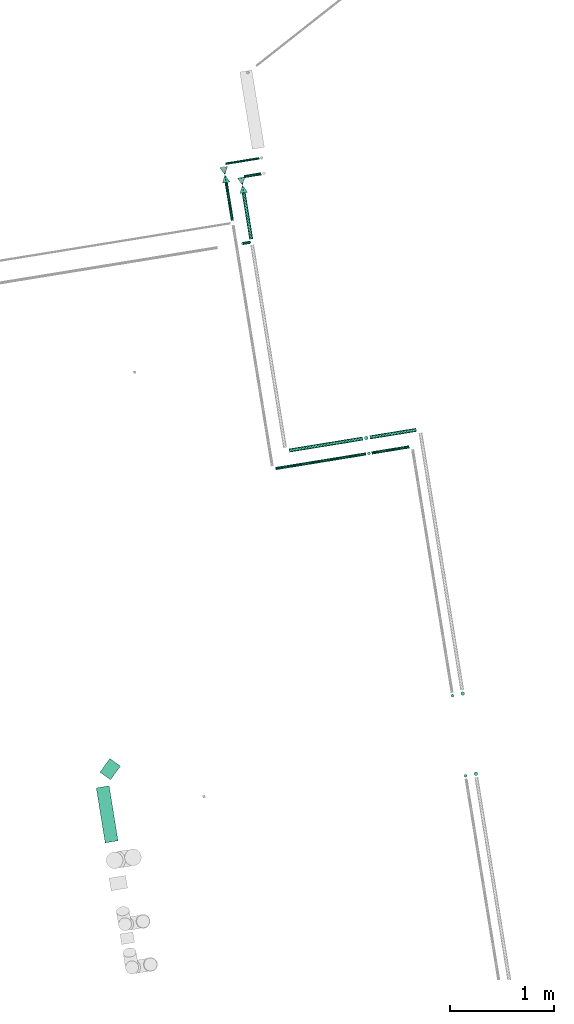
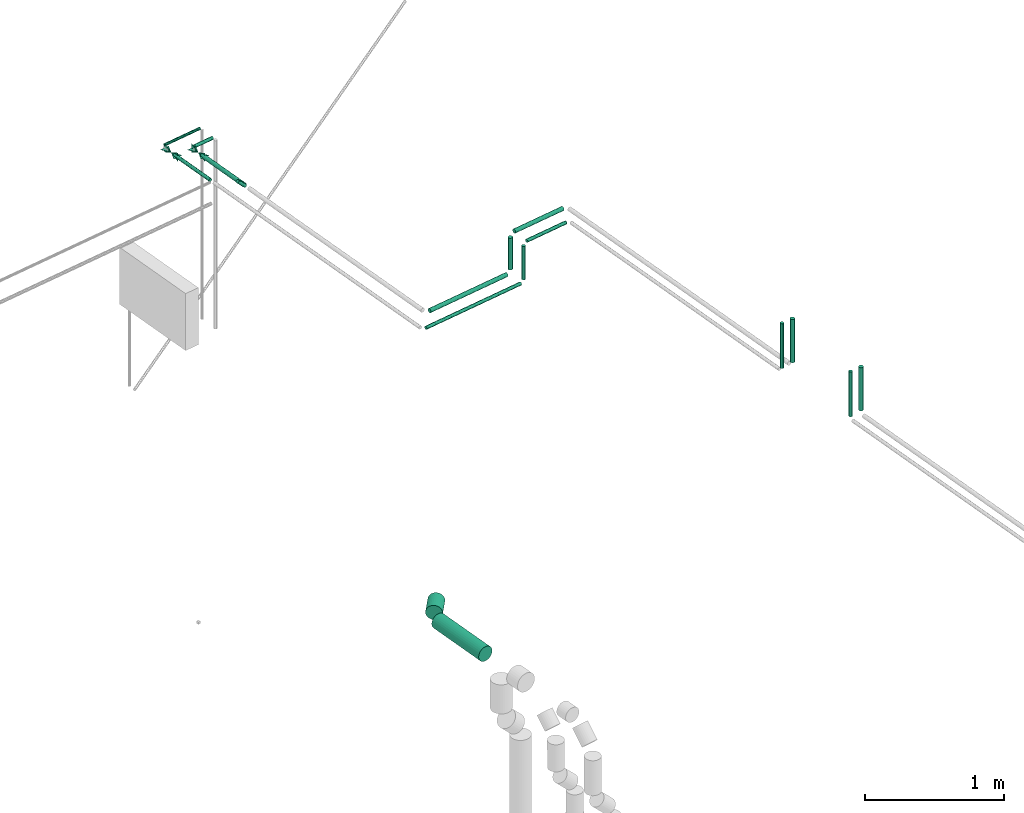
# One storey, part 4 of 11: 17 flow segments, 2 flow controllers.
"""IFC2X3 building model written with IfcOpenShell, lengths in millimetres."""

from ifc_helpers import new_model, entity, si_unit, converted_unit, derived_unit, direction, frame, frame_2d, origin, origin_with_axes, origin_2d_with_axis, place, context, subcontext, project, spatial, polyline, circle, outline, extrude, source, transform, mapped, material, type_object, element, save


model = new_model("IFC2X3")

# Units and contexts
plan_context = context("Plan", 3, precision=1e-05, world=origin_with_axes())
model_context = context("Model", 3, precision=0.01, world=origin(), true_north=direction((6.12323399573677e-17, 1.0)))
body_context = subcontext(model_context, "Body", "Model", "MODEL_VIEW")
ifc_project = project(units=[converted_unit("PLANEANGLEUNIT", "DEGREE", entity("IfcPositiveLengthMeasure", 0.0174532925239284), si_unit("PLANEANGLEUNIT", "RADIAN"), dimensions=[0, 0, 0, 0, 0, 0, 0]), si_unit("AREAUNIT", "SQUARE_METRE"), si_unit("LENGTHUNIT", "METRE", prefix="MILLI"), si_unit("MASSUNIT", "GRAM", prefix="KILO"), si_unit("POWERUNIT", "WATT"), si_unit("PRESSUREUNIT", "PASCAL", prefix="KILO"), si_unit("FORCEUNIT", "NEWTON", prefix="KILO"), si_unit("ELECTRICVOLTAGEUNIT", "VOLT"), si_unit("ELECTRICCURRENTUNIT", "AMPERE"), si_unit("THERMODYNAMICTEMPERATUREUNIT", "DEGREE_CELSIUS"), si_unit("TIMEUNIT", "SECOND"), si_unit("VOLUMEUNIT", "CUBIC_METRE"), derived_unit("LINEARVELOCITYUNIT", [(si_unit("LENGTHUNIT", "METRE"), 1), (si_unit("TIMEUNIT", "SECOND"), -1)]), derived_unit("VOLUMETRICFLOWRATEUNIT", [(si_unit("VOLUMEUNIT", "CUBIC_METRE"), 1), (si_unit("TIMEUNIT", "SECOND"), -1)]), derived_unit("THERMALTRANSMITTANCEUNIT", [(si_unit("POWERUNIT", "WATT"), 1), (si_unit("THERMODYNAMICTEMPERATUREUNIT", "KELVIN"), -1), (si_unit("AREAUNIT", "SQUARE_METRE"), -1)]), derived_unit("SOUNDPRESSUREUNIT", [(si_unit("PRESSUREUNIT", "PASCAL"), 1)])], contexts=[model_context, plan_context])

# Site, building, storey
site_placement = place(None, frame((-0.000710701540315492, 0.00438415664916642, 0.0), z_axis=(0.0, 0.0, 1.0), x_axis=(-0.160236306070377, 0.987078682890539, 0.0)))
site = spatial("IfcSite", under=ifc_project, at=site_placement, Name="Default", CompositionType="ELEMENT")
building_placement = place(site_placement, origin_with_axes())
building = spatial("IfcBuilding", under=site, at=building_placement, CompositionType="ELEMENT")
storey_placement = place(building_placement, frame((0.0, 0.0, 58999.9999999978), z_axis=(0.0, 0.0, 1.0), x_axis=(1.0, 0.0, 0.0)))
storey = spatial("IfcBuildingStorey", under=building, at=storey_placement, Name="Nivå F", CompositionType="ELEMENT", Elevation=58999.9999999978)

# Flow controllers
ifc_material = material(Name="<Unnamed>")
valve_type_1 = type_object("IfcValveType", Name="STENGEVENTIL - MANUELL - 4 - SM:STENGEVENTIL - MANUELL - 20 - SM01T", PredefinedType="NOTDEFINED", material=ifc_material)
shared_shape = source(origin(), body_context, "Body", "SweptSolid", [
    extrude(outline(polyline([(-39.1311896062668, -22.3606797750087), (44.7213595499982, -22.3606797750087), (-5.59016994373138, 44.7213595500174), (-39.1311896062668, -22.3606797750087)])), frame((50.0, -1.07349053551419, 0.0), z_axis=(0.0, 1.0, 0.0), x_axis=(-0.894427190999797, 0.0, 0.447213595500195)), (0.0, 0.0, 1.0), 2.13989335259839),
    extrude(outline(polyline([(-37.5000000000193, -25.0), (37.5000000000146, -25.0), (0.0, 50.0), (-37.5000000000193, -25.0)])), frame((-50.0, -1.07349053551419, 0.0), z_axis=(0.0, 1.0, 0.0), x_axis=(0.0, 0.0, 1.0)), (0.0, 0.0, 1.0), 2.13989335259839),
    extrude(outline(polyline([(-37.5000000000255, -25.0), (37.5000000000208, -25.0), (0.0, 50.0), (-37.5000000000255, -25.0)])), frame((50.0, 0.0, -1.0664028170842), z_axis=(0.0, 0.0, 1.0), x_axis=(0.0, 1.0, 0.0)), (0.0, 0.0, 1.0), 2.13989335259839),
    extrude(outline(polyline([(-39.1311896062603, -22.360679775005), (44.7213595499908, -22.360679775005), (-5.59016994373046, 44.72135955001), (-39.1311896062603, -22.360679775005)])), frame((-50.0, 0.0, -1.0664028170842), z_axis=(0.0, 0.0, 1.0), x_axis=(0.894427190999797, 0.447213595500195, 0.0)), (0.0, 0.0, 1.0), 2.13989335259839),
])
flow_controller_1_placement = place(storey_placement, frame((779035.700057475, -503240.672878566, 2680.0), z_axis=(0.0, 0.0, -1.0), x_axis=(-1.0, 0.0, 0.0)))
element("IfcFlowController", 1, at=flow_controller_1_placement, inside=storey, type_object=valve_type_1, material=ifc_material, Name="STENGEVENTIL - MANUELL - 4 - SM:STENGEVENTIL - MANUELL - 20 - SM01T", ObjectType="STENGEVENTIL - MANUELL - 4 - SM:STENGEVENTIL - MANUELL - 20 - SM01T", context=body_context, shape_type="MappedRepresentation", body=[
    mapped(shared_shape, transform((0.0, 0.0, 0.0), scale=1.0)),
])
valve_type_2 = type_object("IfcValveType", Name="STENGEVENTIL - MANUELL - 4 - SM:STENGEVENTIL - MANUELL - 25 - SM01T", PredefinedType="NOTDEFINED", material=ifc_material)
flow_controller_2_placement = place(storey_placement, frame((778911.151336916, -503390.672878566, 2680.0), z_axis=(0.0, 0.0, -1.0), x_axis=(-1.0, 0.0, 0.0)))
element("IfcFlowController", 2, at=flow_controller_2_placement, inside=storey, type_object=valve_type_2, material=ifc_material, Name="STENGEVENTIL - MANUELL - 4 - SM:STENGEVENTIL - MANUELL - 25 - SM01T", ObjectType="STENGEVENTIL - MANUELL - 4 - SM:STENGEVENTIL - MANUELL - 25 - SM01T", context=body_context, shape_type="MappedRepresentation", body=[
    mapped(shared_shape, transform((0.0, 0.0, 0.0), scale=1.0)),
])

# Flow segments
pipe_segment_type_1 = type_object("IfcPipeSegmentType", Name="Pipe Types:Rustfrie stålrør", PredefinedType="NOTDEFINED")
flow_segment_1_placement = place(storey_placement, origin_with_axes())
element("IfcFlowSegment", 3, at=flow_segment_1_placement, inside=storey, type_object=pipe_segment_type_1, Name="Pipe Types:Rustfrie stålrør", ObjectType="Pipe Types:Rustfrie stålrør", context=body_context, shape_type="SweptSolid", body=[
    extrude(circle(Radius=62.500000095, at=frame_2d((-4.90049721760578e-11, 7.35553115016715e-15), x_axis=(1.0, 0.0))), frame((773526.61918197, -501183.074979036, 2543.09130828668), z_axis=(0.707106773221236, -0.707106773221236, -0.000150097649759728), x_axis=(0.707106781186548, 0.707106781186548, 0.0)), (0.0, 0.0, 1.0), 162.090482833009),
])
flow_segment_2_placement = place(storey_placement, origin_with_axes())
element("IfcFlowSegment", 4, at=flow_segment_2_placement, inside=storey, type_object=pipe_segment_type_1, Name="Pipe Types:Rustfrie stålrør", ObjectType="Pipe Types:Rustfrie stålrør", context=body_context, shape_type="SweptSolid", body=[
    extrude(circle(Radius=62.500000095, at=origin_2d_with_axis()), frame((772893.937290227, -501142.128505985, 2543.06697888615), z_axis=(1.0, 0.0, 5.51472140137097e-05), x_axis=(0.0, -1.0, 0.0)), (0.0, 0.0, 1.0), 533.828361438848),
])
pipe_segment_type_2 = type_object("IfcPipeSegmentType", Name="Pipe Types:Kobberrør", PredefinedType="NOTDEFINED")
flow_segment_3_placement = place(storey_placement, origin_with_axes())
element("IfcFlowSegment", 5, at=flow_segment_3_placement, inside=storey, type_object=pipe_segment_type_2, Name="Pipe Types:Kobberrør", ObjectType="Pipe Types:Kobberrør", context=body_context, shape_type="SweptSolid", body=[
    extrude(circle(Radius=14.0, at=origin_2d_with_axis()), frame((776176.557665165, -504567.65053932, 3030.0), z_axis=(0.0, 1.0, 0.0), x_axis=(1.0, 0.0, 0.0)), (0.0, 0.0, 1.0), 363.999999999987),
])
flow_segment_4_placement = place(storey_placement, origin_with_axes())
element("IfcFlowSegment", 6, at=flow_segment_4_placement, inside=storey, type_object=pipe_segment_type_2, Name="Pipe Types:Kobberrør", ObjectType="Pipe Types:Kobberrør", context=body_context, shape_type="SweptSolid", body=[
    extrude(circle(Radius=17.5, at=origin_2d_with_axis()), frame((776326.557665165, -504660.650539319, 3030.0), z_axis=(0.0, 1.0, 0.0), x_axis=(1.0, 0.0, 0.0)), (0.0, 0.0, 1.0), 449.999999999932),
])
flow_segment_5_placement = place(storey_placement, origin_with_axes())
element("IfcFlowSegment", 7, at=flow_segment_5_placement, inside=storey, type_object=pipe_segment_type_2, Name="Pipe Types:Kobberrør", ObjectType="Pipe Types:Kobberrør", context=body_context, shape_type="SweptSolid", body=[
    extrude(circle(Radius=14.0, at=origin_2d_with_axis()), frame((776176.557665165, -504147.65053932, 2680.0), z_axis=(0.0, 1.0, 0.0), x_axis=(1.0, 0.0, 0.0)), (0.0, 0.0, 1.0), 878.977660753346),
])
flow_segment_6_placement = place(storey_placement, origin_with_axes())
element("IfcFlowSegment", 8, at=flow_segment_6_placement, inside=storey, type_object=pipe_segment_type_2, Name="Pipe Types:Kobberrør", ObjectType="Pipe Types:Kobberrør", context=body_context, shape_type="SweptSolid", body=[
    extrude(circle(Radius=17.5, at=origin_2d_with_axis()), frame((776326.557665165, -504140.65053932, 2680.0), z_axis=(0.0, 1.0, 0.0), x_axis=(1.0, 0.0, 0.0)), (0.0, 0.0, 1.0), 714.977660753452),
])
flow_segment_7_placement = place(storey_placement, origin_with_axes())
element("IfcFlowSegment", 9, at=flow_segment_7_placement, inside=storey, type_object=pipe_segment_type_2, Name="Pipe Types:Kobberrør", ObjectType="Pipe Types:Kobberrør", context=body_context, shape_type="SweptSolid", body=[
    extrude(circle(Radius=17.5, at=frame_2d((0.0, -6.93034962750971e-11), x_axis=(1.0, 0.0))), frame((776326.557665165, -504175.65053932, 2715.0)), (0.0, 0.0, 1.0), 279.999999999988),
])
flow_segment_8_placement = place(storey_placement, origin_with_axes())
element("IfcFlowSegment", 10, at=flow_segment_8_placement, inside=storey, type_object=pipe_segment_type_2, Name="Pipe Types:Kobberrør", ObjectType="Pipe Types:Kobberrør", context=body_context, shape_type="SweptSolid", body=[
    extrude(circle(Radius=14.0, at=frame_2d((0.0, -6.93034962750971e-11), x_axis=(1.0, 0.0))), frame((776176.557665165, -504175.65053932, 2708.0)), (0.0, 0.0, 1.0), 293.999999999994),
])
flow_segment_9_placement = place(storey_placement, origin_with_axes())
element("IfcFlowSegment", 11, at=flow_segment_9_placement, inside=storey, type_object=pipe_segment_type_2, Name="Pipe Types:Kobberrør", ObjectType="Pipe Types:Kobberrør", context=body_context, shape_type="SweptSolid", body=[
    extrude(circle(Radius=14.0, at=origin_2d_with_axis()), frame((778990.080004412, -503585.480498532, 2680.0), z_axis=(0.0, 1.0, 0.0), x_axis=(-1.0, 0.0, 0.0)), (0.0, 0.0, 1.0), 166.807619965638),
])
flow_segment_10_placement = place(storey_placement, origin_with_axes())
element("IfcFlowSegment", 12, at=flow_segment_10_placement, inside=storey, type_object=pipe_segment_type_2, Name="Pipe Types:Kobberrør", ObjectType="Pipe Types:Kobberrør", context=body_context, shape_type="SweptSolid", body=[
    extrude(circle(Radius=11.0, at=origin_2d_with_axis()), frame((779140.080004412, -503591.480498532, 2680.0), z_axis=(0.0, 1.0, 0.0), x_axis=(-1.0, 0.0, 0.0)), (0.0, 0.0, 1.0), 328.807619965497),
])
flow_segment_11_placement = place(storey_placement, origin_with_axes())
element("IfcFlowSegment", 13, at=flow_segment_11_placement, inside=storey, type_object=pipe_segment_type_2, Name="Pipe Types:Kobberrør", ObjectType="Pipe Types:Kobberrør", context=body_context, shape_type="SweptSolid", body=[
    extrude(circle(Radius=14.0, at=frame_2d((-6.93034962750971e-11, 0.0), x_axis=(1.0, 0.0))), frame((778591.161479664, -503240.672878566, 2680.0), z_axis=(1.0, 0.0, 0.0), x_axis=(0.0, -1.0, 0.0)), (0.0, 0.0, 1.0), 407.538577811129),
])
flow_segment_12_placement = place(storey_placement, origin_with_axes())
element("IfcFlowSegment", 14, at=flow_segment_12_placement, inside=storey, type_object=pipe_segment_type_2, Name="Pipe Types:Kobberrør", ObjectType="Pipe Types:Kobberrør", context=body_context, shape_type="SweptSolid", body=[
    extrude(circle(Radius=14.0, at=frame_2d((0.0, -6.93034962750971e-11), x_axis=(1.0, 0.0))), frame((772974.557665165, -504595.650539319, 3058.0)), (0.0, 0.0, 1.0), 393.999999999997),
])
flow_segment_13_placement = place(storey_placement, origin_with_axes())
element("IfcFlowSegment", 15, at=flow_segment_13_placement, inside=storey, type_object=pipe_segment_type_2, Name="Pipe Types:Kobberrør", ObjectType="Pipe Types:Kobberrør", context=body_context, shape_type="SweptSolid", body=[
    extrude(circle(Radius=17.5, at=origin_2d_with_axis()), frame((772978.557665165, -504695.650539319, 3065.0)), (0.0, 0.0, 1.0), 380.0),
])
flow_segment_14_placement = place(storey_placement, origin_with_axes())
element("IfcFlowSegment", 16, at=flow_segment_14_placement, inside=storey, type_object=pipe_segment_type_2, Name="Pipe Types:Kobberrør", ObjectType="Pipe Types:Kobberrør", context=body_context, shape_type="SweptSolid", body=[
    extrude(circle(Radius=14.0, at=origin_2d_with_axis()), frame((773754.557665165, -504595.65053932, 3058.0), z_axis=(0.0, 0.0, 1.0), x_axis=(-1.0, 0.0, 0.0)), (0.0, 0.0, 1.0), 393.999999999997),
])
flow_segment_15_placement = place(storey_placement, origin_with_axes())
element("IfcFlowSegment", 17, at=flow_segment_15_placement, inside=storey, type_object=pipe_segment_type_2, Name="Pipe Types:Kobberrør", ObjectType="Pipe Types:Kobberrør", context=body_context, shape_type="SweptSolid", body=[
    extrude(circle(Radius=17.5, at=frame_2d((0.0, -6.93034962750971e-11), x_axis=(1.0, 0.0))), frame((773758.557665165, -504695.65053932, 3065.0), z_axis=(0.0, 0.0, 1.0), x_axis=(-1.0, 0.0, 0.0)), (0.0, 0.0, 1.0), 380.0),
])
flow_segment_16_placement = place(storey_placement, origin_with_axes())
element("IfcFlowSegment", 18, at=flow_segment_16_placement, inside=storey, type_object=pipe_segment_type_2, Name="Pipe Types:Kobberrør", ObjectType="Pipe Types:Kobberrør", context=body_context, shape_type="SweptSolid", body=[
    extrude(circle(Radius=14.0, at=origin_2d_with_axis()), frame((778358.619644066, -503372.11132556, 2698.56155300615), z_axis=(0.0, 0.70710678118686, 0.707106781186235), x_axis=(-1.0, 0.0, 0.0)), (0.0, 0.0, 1.0), 97.152020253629),
])
flow_segment_17_placement = place(storey_placement, origin_with_axes())
element("IfcFlowSegment", 19, at=flow_segment_17_placement, inside=storey, type_object=pipe_segment_type_2, Name="Pipe Types:Kobberrør", ObjectType="Pipe Types:Kobberrør", context=body_context, shape_type="SweptSolid", body=[
    extrude(circle(Radius=17.5, at=frame_2d((0.0, -8.66293703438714e-12), x_axis=(1.0, 0.0))), frame((778386.619644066, -503390.672878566, 2680.0), z_axis=(1.0, 0.0, 0.0), x_axis=(0.0, -1.0, 0.0)), (0.0, 0.0, 1.0), 481.031692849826),
])

save(model, "model.ifc")
